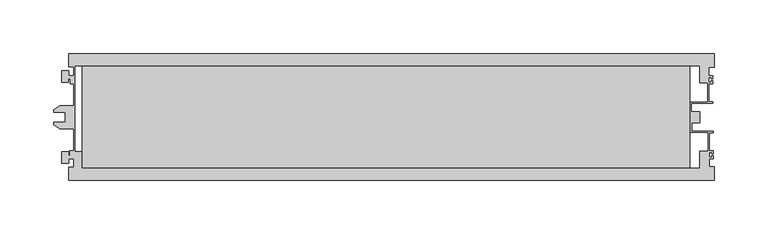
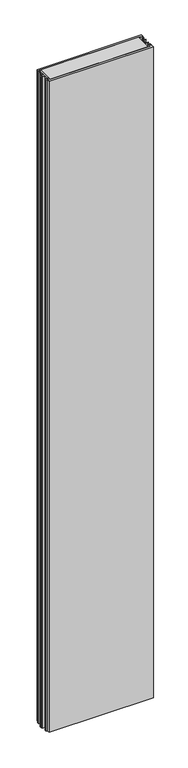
"""IFC4 building model written with IfcOpenShell, lengths in millimetres: plate geometry, Walls_External-Walls_Danpal_Danpatherm-K12 : Walls_External-Walls_Danpal_Danpatherm-K12."""

from ifc_helpers import new_model, si_unit, frame, origin, place, context, project, spatial, polyline, outline, extrude, source, transform, mapped, element, save


def plate_dc679179(model_context):
    return source(origin(), model_context, "Body", "SweptSolid", [
        extrude(outline(polyline([(272.2066992, 11.5), (-292.2724113, 11.5), (-292.2724113, 105.9), (272.2066992, 105.9), (272.2066992, 11.5)])), frame((0.0, 0.0, -29.0), z_axis=(0.0, 0.0, 1.0), x_axis=(1.0, 0.0, 0.0)), (0.0, 0.0, 1.0), 3952.2118076),
        extrude(outline(polyline([(-304.9117751, 0.0), (-304.9117751, 12.0), (-300.2191216, 12.0), (-300.2191216, 19.8235008), (-304.8516512, 19.8235008), (-304.8516512, 15.7697721), (-311.2990196, 15.7697721), (-311.2990196, 26.3618773), (-304.9117751, 26.3618773), (-304.9117751, 22.8208692), (-303.8191181, 22.8208692), (-303.8191181, 27.4235008), (-300.1117751, 27.4235008), (-300.1117751, 47.6749188), (-313.1832679, 47.6749188), (-318.5717803, 51.6018507), (-318.5717803, 53.8499188), (-307.738447, 53.8499188), (-307.738447, 63.1232521), (-318.5717803, 63.1232521), (-318.5717803, 65.3713202), (-313.1832679, 69.2982521), (-299.8117751, 69.2982521), (-299.8117751, 89.4749648), (-303.4117717, 89.4749648), (-303.4117717, 94.0775963), (-304.9245306, 94.0775963), (-304.9245306, 91.0381227), (-311.3117751, 91.0381227), (-311.3117751, 101.6302279), (-304.8644067, 101.6302279), (-304.8644067, 97.0749648), (-299.8117751, 97.0749648), (-299.8117751, 105.4), (-304.9117751, 105.4), (-304.9117751, 117.4), (295.0882249, 117.4), (295.0882249, 104.9), (289.9882249, 104.9), (289.9882249, 97.0749648), (293.5882214, 97.0749648), (293.5882214, 94.2749648), (292.2882214, 94.2749648), (292.2882214, 95.7749648), (289.8882249, 95.7749648), (289.8882249, 90.7749648), (292.2882214, 90.7749648), (292.2882214, 92.2749648), (293.5882214, 92.2749648), (293.5882214, 89.4749648), (289.9882249, 89.4749648), (289.9882249, 72.6749349), (293.5882214, 72.6749349), (293.5882214, 71.3749594), (273.8882097, 71.3749594), (273.8882097, 63.5500812), (281.5882097, 63.5500812), (281.5882097, 53.3499188), (274.4537153, 53.3499188), (274.4537153, 45.5250406), (294.153727, 45.5250406), (294.153727, 44.2251011), (290.5537305, 44.2251011), (290.553529, 27.4250712), (294.1535219, 27.4250712), (294.1535219, 24.6250436), (292.8534955, 24.6250436), (292.8534955, 26.1250508), (290.4535098, 26.1250508), (290.4535098, 21.1250724), (292.8534535, 21.1250724), (292.8534535, 22.6250436), (294.1534643, 22.6250436), (294.1534643, 19.8250352), (290.5534378, 19.8250352), (290.5533485, 12.3834733), (295.0882249, 12.326688), (295.0882249, 0.0), (-304.9117751, 0.0)]), holes=[polyline([(281.2882097, 11.5), (281.2569049, 27.5010583), (289.1537295, 27.4021751), (289.1537295, 44.143617), (272.2066992, 44.143617), (272.2066992, 72.9749349), (288.5882249, 72.9749349), (288.5882249, 89.9), (281.1394443, 89.9), (281.0766508, 105.9), (-298.8569924, 105.9), (-298.8569924, 27.0), (-292.2724113, 27.0), (-292.2724113, 11.5), (281.2882097, 11.5)])]), frame((0.0, 0.0, -29.0), z_axis=(0.0, 0.0, 1.0), x_axis=(1.0, 0.0, 0.0)), (0.0, 0.0, 1.0), 3952.2118076),
    ])


if __name__ == "__main__":
    model = new_model("IFC4")
    model_context = context("Model", 3, world=origin())
    ifc_project = project(units=[si_unit("LENGTHUNIT", "METRE", prefix="MILLI")], contexts=[model_context])
    site = spatial("IfcSite", under=ifc_project)
    building = spatial("IfcBuilding", under=site)
    placement = place(None, origin())
    plate_shape = plate_dc679179(model_context)
    element("IfcPlate", 1, ObjectType="Walls_External-Walls_Danpal_Danpatherm-K12 : Walls_External-Walls_Danpal_Danpatherm-K12", at=placement, inside=building, context=model_context, shape_type="MappedRepresentation", body=[
        mapped(plate_shape, transform((0.0, 0.0, 0.0), x_axis=(1.0, 0.0, 0.0), y_axis=(0.0, 1.0, 0.0), z_axis=(0.0, 0.0, 1.0))),
    ])
    save(model, "model.ifc")
